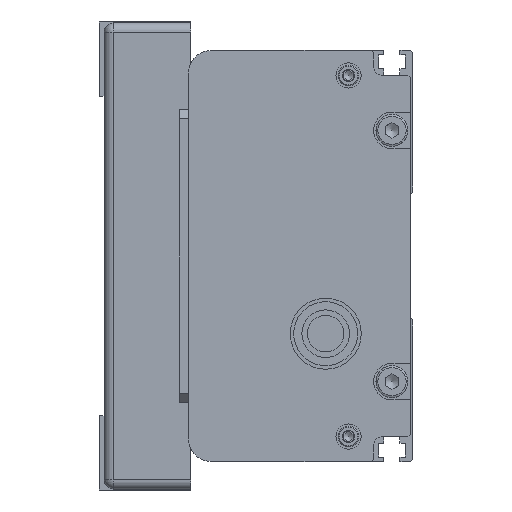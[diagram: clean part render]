
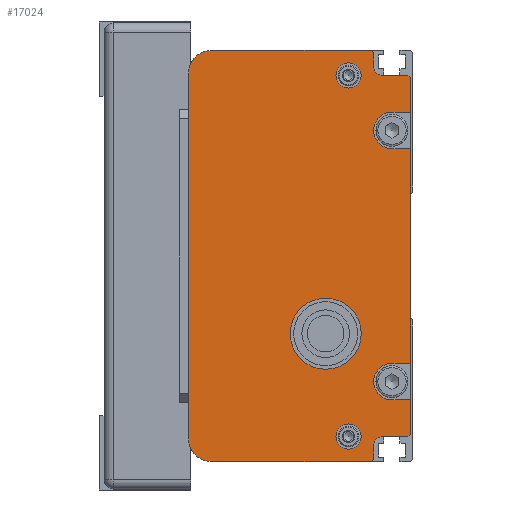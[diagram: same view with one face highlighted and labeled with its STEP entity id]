
A CAD part, left-side view. The second image highlights one B-rep face of the part: STEP entity #17024.
In plain terms, the highlighted planar face has unit normal (-1, 0, 0) as drawn and (0, 0, -1) by its records, which use the part's own axes.
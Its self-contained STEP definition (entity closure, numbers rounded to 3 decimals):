
#1084=FACE_BOUND('',#2504,.T.);
#1085=FACE_BOUND('',#2505,.T.);
#1086=FACE_BOUND('',#2506,.T.);
#1426=FACE_OUTER_BOUND('',#2503,.T.);
#2503=EDGE_LOOP('',(#11835,#11836,#11837,#11838,#11839,#11840,#11841,#11842,
#11843,#11844,#11845,#11846,#11847,#11848,#11849,#11850,#11851,#11852,#11853,
#11854,#11855,#11856,#11857,#11858));
#2504=EDGE_LOOP('',(#11859));
#2505=EDGE_LOOP('',(#11860));
#2506=EDGE_LOOP('',(#11861));
#3801=LINE('',#24681,#5299);
#3827=LINE('',#24748,#5325);
#3829=LINE('',#24753,#5327);
#3830=LINE('',#24755,#5328);
#3831=LINE('',#24758,#5329);
#3832=LINE('',#24760,#5330);
#3833=LINE('',#24762,#5331);
#3834=LINE('',#24766,#5332);
#3835=LINE('',#24768,#5333);
#3836=LINE('',#24770,#5334);
#3837=LINE('',#24774,#5335);
#3838=LINE('',#24776,#5336);
#3839=LINE('',#24778,#5337);
#3840=LINE('',#24780,#5338);
#3841=LINE('',#24784,#5339);
#3842=LINE('',#24786,#5340);
#3843=LINE('',#24787,#5341);
#3844=LINE('',#24788,#5342);
#5299=VECTOR('',#20054,80.);
#5325=VECTOR('',#20106,0.707);
#5327=VECTOR('',#20110,0.707);
#5328=VECTOR('',#20111,3.);
#5329=VECTOR('',#20114,5.5);
#5330=VECTOR('',#20115,7.5);
#5331=VECTOR('',#20116,4.);
#5332=VECTOR('',#20119,4.);
#5333=VECTOR('',#20120,47.);
#5334=VECTOR('',#20121,4.);
#5335=VECTOR('',#20124,4.);
#5336=VECTOR('',#20125,7.5);
#5337=VECTOR('',#20126,0.707);
#5338=VECTOR('',#20127,5.5);
#5339=VECTOR('',#20130,3.);
#5340=VECTOR('',#20131,0.707);
#5341=VECTOR('',#20132,35.);
#5342=VECTOR('',#20133,35.);
#6692=CIRCLE('',#18188,5.);
#6695=CIRCLE('',#18195,5.);
#6697=CIRCLE('',#18201,2.);
#6698=CIRCLE('',#18202,4.);
#6699=CIRCLE('',#18203,4.);
#6700=CIRCLE('',#18204,2.);
#6701=CIRCLE('',#18205,7.769);
#6702=CIRCLE('',#18206,2.75);
#6703=CIRCLE('',#18207,2.75);
#7303=VERTEX_POINT('',#24678);
#7304=VERTEX_POINT('',#24680);
#7305=VERTEX_POINT('',#24684);
#7308=VERTEX_POINT('',#24695);
#7331=VERTEX_POINT('',#24745);
#7332=VERTEX_POINT('',#24747);
#7333=VERTEX_POINT('',#24751);
#7334=VERTEX_POINT('',#24752);
#7335=VERTEX_POINT('',#24754);
#7336=VERTEX_POINT('',#24756);
#7337=VERTEX_POINT('',#24759);
#7338=VERTEX_POINT('',#24761);
#7339=VERTEX_POINT('',#24763);
#7340=VERTEX_POINT('',#24765);
#7341=VERTEX_POINT('',#24767);
#7342=VERTEX_POINT('',#24769);
#7343=VERTEX_POINT('',#24771);
#7344=VERTEX_POINT('',#24773);
#7345=VERTEX_POINT('',#24775);
#7346=VERTEX_POINT('',#24777);
#7347=VERTEX_POINT('',#24779);
#7348=VERTEX_POINT('',#24781);
#7349=VERTEX_POINT('',#24783);
#7350=VERTEX_POINT('',#24785);
#7351=VERTEX_POINT('',#24789);
#7352=VERTEX_POINT('',#24791);
#7353=VERTEX_POINT('',#24793);
#9093=EDGE_CURVE('',#7303,#7304,#3801,.T.);
#9095=EDGE_CURVE('',#7304,#7305,#6692,.T.);
#9100=EDGE_CURVE('',#7308,#7303,#6695,.T.);
#9124=EDGE_CURVE('',#7331,#7332,#3827,.T.);
#9126=EDGE_CURVE('',#7333,#7334,#3829,.T.);
#9127=EDGE_CURVE('',#7333,#7335,#3830,.T.);
#9128=EDGE_CURVE('',#7335,#7336,#6697,.T.);
#9129=EDGE_CURVE('',#7336,#7332,#3831,.T.);
#9130=EDGE_CURVE('',#7337,#7331,#3832,.T.);
#9131=EDGE_CURVE('',#7337,#7338,#3833,.T.);
#9132=EDGE_CURVE('',#7338,#7339,#6698,.T.);
#9133=EDGE_CURVE('',#7339,#7340,#3834,.T.);
#9134=EDGE_CURVE('',#7341,#7340,#3835,.T.);
#9135=EDGE_CURVE('',#7341,#7342,#3836,.T.);
#9136=EDGE_CURVE('',#7342,#7343,#6699,.T.);
#9137=EDGE_CURVE('',#7343,#7344,#3837,.T.);
#9138=EDGE_CURVE('',#7345,#7344,#3838,.T.);
#9139=EDGE_CURVE('',#7346,#7345,#3839,.T.);
#9140=EDGE_CURVE('',#7346,#7347,#3840,.T.);
#9141=EDGE_CURVE('',#7347,#7348,#6700,.T.);
#9142=EDGE_CURVE('',#7348,#7349,#3841,.T.);
#9143=EDGE_CURVE('',#7350,#7349,#3842,.T.);
#9144=EDGE_CURVE('',#7305,#7350,#3843,.T.);
#9145=EDGE_CURVE('',#7334,#7308,#3844,.T.);
#9146=EDGE_CURVE('',#7351,#7351,#6701,.T.);
#9147=EDGE_CURVE('',#7352,#7352,#6702,.T.);
#9148=EDGE_CURVE('',#7353,#7353,#6703,.T.);
#11835=ORIENTED_EDGE('',*,*,#9126,.F.);
#11836=ORIENTED_EDGE('',*,*,#9127,.T.);
#11837=ORIENTED_EDGE('',*,*,#9128,.T.);
#11838=ORIENTED_EDGE('',*,*,#9129,.T.);
#11839=ORIENTED_EDGE('',*,*,#9124,.F.);
#11840=ORIENTED_EDGE('',*,*,#9130,.F.);
#11841=ORIENTED_EDGE('',*,*,#9131,.T.);
#11842=ORIENTED_EDGE('',*,*,#9132,.T.);
#11843=ORIENTED_EDGE('',*,*,#9133,.T.);
#11844=ORIENTED_EDGE('',*,*,#9134,.F.);
#11845=ORIENTED_EDGE('',*,*,#9135,.T.);
#11846=ORIENTED_EDGE('',*,*,#9136,.T.);
#11847=ORIENTED_EDGE('',*,*,#9137,.T.);
#11848=ORIENTED_EDGE('',*,*,#9138,.F.);
#11849=ORIENTED_EDGE('',*,*,#9139,.F.);
#11850=ORIENTED_EDGE('',*,*,#9140,.T.);
#11851=ORIENTED_EDGE('',*,*,#9141,.T.);
#11852=ORIENTED_EDGE('',*,*,#9142,.T.);
#11853=ORIENTED_EDGE('',*,*,#9143,.F.);
#11854=ORIENTED_EDGE('',*,*,#9144,.F.);
#11855=ORIENTED_EDGE('',*,*,#9095,.F.);
#11856=ORIENTED_EDGE('',*,*,#9093,.F.);
#11857=ORIENTED_EDGE('',*,*,#9100,.F.);
#11858=ORIENTED_EDGE('',*,*,#9145,.F.);
#11859=ORIENTED_EDGE('',*,*,#9146,.T.);
#11860=ORIENTED_EDGE('',*,*,#9147,.T.);
#11861=ORIENTED_EDGE('',*,*,#9148,.T.);
#16410=PLANE('',#18200);
#17024=ADVANCED_FACE('',(#1426,#1084,#1085,#1086),#16410,.F.);
#18188=AXIS2_PLACEMENT_3D('',#24685,#20058,#20059);
#18195=AXIS2_PLACEMENT_3D('',#24697,#20074,#20075);
#18200=AXIS2_PLACEMENT_3D('',#24750,#20108,#20109);
#18201=AXIS2_PLACEMENT_3D('',#24757,#20112,#20113);
#18202=AXIS2_PLACEMENT_3D('',#24764,#20117,#20118);
#18203=AXIS2_PLACEMENT_3D('',#24772,#20122,#20123);
#18204=AXIS2_PLACEMENT_3D('',#24782,#20128,#20129);
#18205=AXIS2_PLACEMENT_3D('',#24790,#20134,#20135);
#18206=AXIS2_PLACEMENT_3D('',#24792,#20136,#20137);
#18207=AXIS2_PLACEMENT_3D('',#24794,#20138,#20139);
#20054=DIRECTION('',(-1.,0.,0.));
#20058=DIRECTION('center_axis',(0.,0.,1.));
#20059=DIRECTION('ref_axis',(0.,1.,0.));
#20074=DIRECTION('center_axis',(0.,0.,1.));
#20075=DIRECTION('ref_axis',(1.,0.,0.));
#20106=DIRECTION('',(0.707,0.707,0.));
#20108=DIRECTION('center_axis',(0.,0.,1.));
#20109=DIRECTION('ref_axis',(1.,0.,0.));
#20110=DIRECTION('',(0.707,0.707,0.));
#20111=DIRECTION('',(-1.,0.,0.));
#20112=DIRECTION('center_axis',(0.,0.,1.));
#20113=DIRECTION('ref_axis',(0.,1.,0.));
#20114=DIRECTION('',(0.,-1.,0.));
#20115=DIRECTION('',(1.,0.,0.));
#20116=DIRECTION('',(0.,1.,0.));
#20117=DIRECTION('center_axis',(0.,0.,1.));
#20118=DIRECTION('ref_axis',(-1.,0.,0.));
#20119=DIRECTION('',(0.,-1.,0.));
#20120=DIRECTION('',(1.,0.,0.));
#20121=DIRECTION('',(0.,1.,0.));
#20122=DIRECTION('center_axis',(0.,0.,1.));
#20123=DIRECTION('ref_axis',(-1.,0.,0.));
#20124=DIRECTION('',(0.,-1.,0.));
#20125=DIRECTION('',(1.,0.,0.));
#20126=DIRECTION('',(0.707,-0.707,0.));
#20127=DIRECTION('',(0.,1.,0.));
#20128=DIRECTION('center_axis',(0.,0.,1.));
#20129=DIRECTION('ref_axis',(-1.,0.,0.));
#20130=DIRECTION('',(-1.,0.,0.));
#20131=DIRECTION('',(0.707,-0.707,0.));
#20132=DIRECTION('',(0.,-1.,0.));
#20133=DIRECTION('',(0.,1.,0.));
#20134=DIRECTION('center_axis',(0.,0.,1.));
#20135=DIRECTION('ref_axis',(0.766,-0.643,0.));
#20136=DIRECTION('center_axis',(0.,0.,1.));
#20137=DIRECTION('ref_axis',(-1.,0.,0.));
#20138=DIRECTION('center_axis',(0.,0.,1.));
#20139=DIRECTION('ref_axis',(-1.,0.,0.));
#24678=CARTESIAN_POINT('',(37.988,51.846,-697.249));
#24680=CARTESIAN_POINT('',(-42.012,51.846,-697.249));
#24681=CARTESIAN_POINT('',(37.988,51.846,-697.249));
#24684=CARTESIAN_POINT('',(-47.012,46.846,-697.249));
#24685=CARTESIAN_POINT('Origin',(-42.012,46.846,-697.249));
#24695=CARTESIAN_POINT('',(42.988,46.846,-697.249));
#24697=CARTESIAN_POINT('Origin',(37.988,46.846,-697.249));
#24745=CARTESIAN_POINT('',(36.988,3.346,-697.249));
#24747=CARTESIAN_POINT('',(37.488,3.846,-697.249));
#24748=CARTESIAN_POINT('',(36.988,3.346,-697.249));
#24750=CARTESIAN_POINT('Origin',(-2.012,27.249,-697.249));
#24751=CARTESIAN_POINT('',(42.488,11.346,-697.249));
#24752=CARTESIAN_POINT('',(42.988,11.846,-697.249));
#24753=CARTESIAN_POINT('',(42.488,11.346,-697.249));
#24754=CARTESIAN_POINT('',(39.488,11.346,-697.249));
#24755=CARTESIAN_POINT('',(42.488,11.346,-697.249));
#24756=CARTESIAN_POINT('',(37.488,9.346,-697.249));
#24757=CARTESIAN_POINT('Origin',(39.488,9.346,-697.249));
#24758=CARTESIAN_POINT('',(37.488,9.346,-697.249));
#24759=CARTESIAN_POINT('',(29.488,3.346,-697.249));
#24760=CARTESIAN_POINT('',(29.488,3.346,-697.249));
#24761=CARTESIAN_POINT('',(29.488,7.346,-697.249));
#24762=CARTESIAN_POINT('',(29.488,3.346,-697.249));
#24763=CARTESIAN_POINT('',(21.488,7.346,-697.249));
#24764=CARTESIAN_POINT('Origin',(25.488,7.346,-697.249));
#24765=CARTESIAN_POINT('',(21.488,3.346,-697.249));
#24766=CARTESIAN_POINT('',(21.488,7.346,-697.249));
#24767=CARTESIAN_POINT('',(-25.512,3.346,-697.249));
#24768=CARTESIAN_POINT('',(-25.512,3.346,-697.249));
#24769=CARTESIAN_POINT('',(-25.512,7.346,-697.249));
#24770=CARTESIAN_POINT('',(-25.512,3.346,-697.249));
#24771=CARTESIAN_POINT('',(-33.512,7.346,-697.249));
#24772=CARTESIAN_POINT('Origin',(-29.512,7.346,-697.249));
#24773=CARTESIAN_POINT('',(-33.512,3.346,-697.249));
#24774=CARTESIAN_POINT('',(-33.512,7.346,-697.249));
#24775=CARTESIAN_POINT('',(-41.012,3.346,-697.249));
#24776=CARTESIAN_POINT('',(-41.012,3.346,-697.249));
#24777=CARTESIAN_POINT('',(-41.512,3.846,-697.249));
#24778=CARTESIAN_POINT('',(-41.512,3.846,-697.249));
#24779=CARTESIAN_POINT('',(-41.512,9.346,-697.249));
#24780=CARTESIAN_POINT('',(-41.512,3.846,-697.249));
#24781=CARTESIAN_POINT('',(-43.512,11.346,-697.249));
#24782=CARTESIAN_POINT('Origin',(-43.512,9.346,-697.249));
#24783=CARTESIAN_POINT('',(-46.512,11.346,-697.249));
#24784=CARTESIAN_POINT('',(-43.512,11.346,-697.249));
#24785=CARTESIAN_POINT('',(-47.012,11.846,-697.249));
#24786=CARTESIAN_POINT('',(-47.012,11.846,-697.249));
#24787=CARTESIAN_POINT('',(-47.012,46.846,-697.249));
#24788=CARTESIAN_POINT('',(42.988,11.846,-697.249));
#24789=CARTESIAN_POINT('',(20.939,16.853,-697.249));
#24790=CARTESIAN_POINT('Origin',(14.988,21.846,-697.249));
#24791=CARTESIAN_POINT('',(34.738,16.846,-697.249));
#24792=CARTESIAN_POINT('Origin',(37.488,16.846,-697.249));
#24793=CARTESIAN_POINT('',(-44.262,16.846,-697.249));
#24794=CARTESIAN_POINT('Origin',(-41.512,16.846,-697.249));
